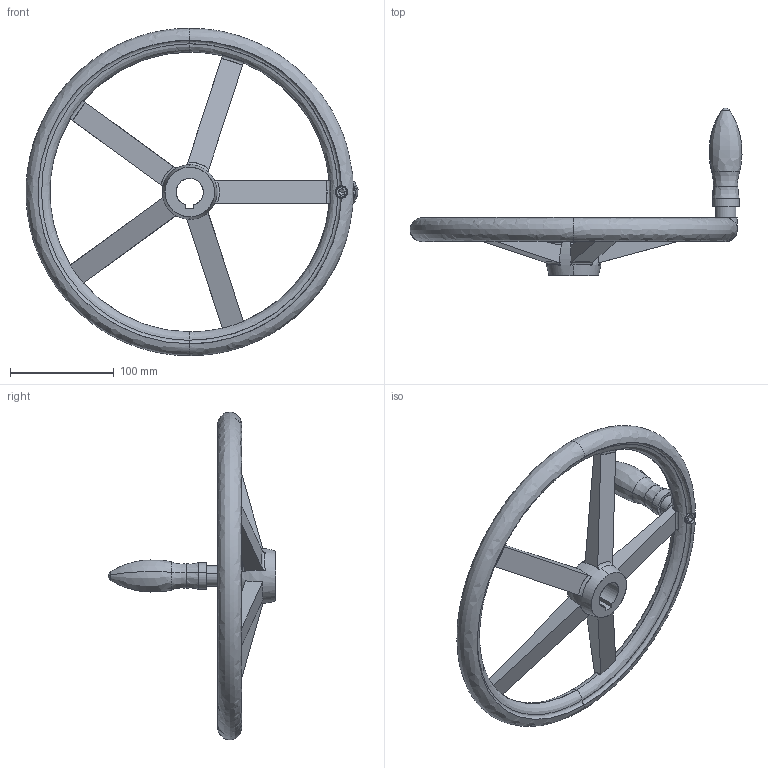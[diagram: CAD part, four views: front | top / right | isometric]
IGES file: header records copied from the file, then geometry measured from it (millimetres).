
Start section: SolidWorks IGES file using analytic representation for surfaces
Global section: file name: C:\Users\IanO\Desktop\Temp File\Process pending\77120_v2\77120_v2_20171108_IGES\77120.W0345.igs; native system: SolidWorks 2017; preprocessor: SolidWorks 2017; author: IanO; date: 171108.083611; units: millimetre
Bounding box: 319.33 x 161.5 x 315 mm (x, y, z)
Surface area: 131180.1 mm2 (no closed solid volume)
Topology: 0 solids, 0 shells, 154 faces, 2147 edges, 2140 vertices
Faces by surface type: bspline 85, revolution 69
